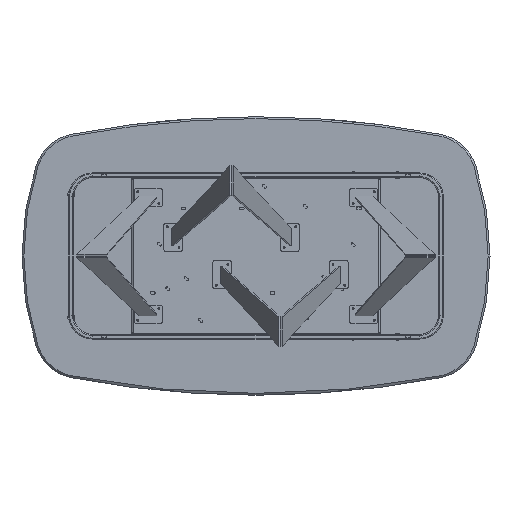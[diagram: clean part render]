
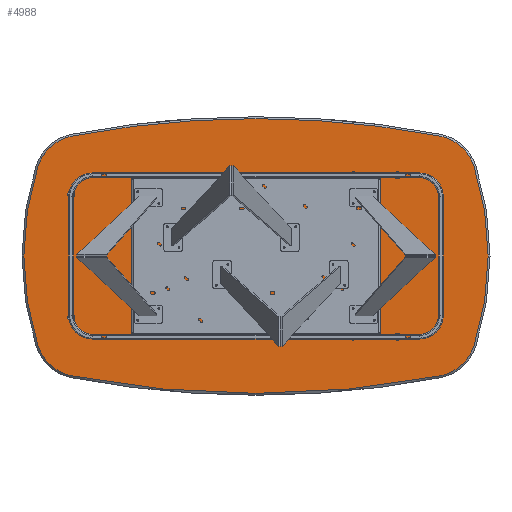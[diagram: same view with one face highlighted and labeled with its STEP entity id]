
A CAD part, front view. The second image highlights one B-rep face of the part: STEP entity #4988.
In plain terms, the highlighted planar face has unit normal (0, -1, 0).
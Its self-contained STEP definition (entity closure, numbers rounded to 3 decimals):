
#102 = AXIS2_PLACEMENT_3D ( 'NONE', #15110, #5413, #6010 ) ;
#274 = CIRCLE ( 'NONE', #16455, 192. ) ;
#595 = CIRCLE ( 'NONE', #2622, 192. ) ;
#728 = CARTESIAN_POINT ( 'NONE',  ( 785.163, 0., -512.813 ) ) ;
#980 = CARTESIAN_POINT ( 'NONE',  ( 0., 0., -3605. ) ) ;
#1252 = VERTEX_POINT ( 'NONE', #9365 ) ;
#1504 = FACE_OUTER_BOUND ( 'NONE', #8410, .T. ) ;
#2261 = AXIS2_PLACEMENT_3D ( 'NONE', #17121, #10712, #18926 ) ;
#2622 = AXIS2_PLACEMENT_3D ( 'NONE', #13698, #18552, #10653 ) ;
#2670 = VERTEX_POINT ( 'NONE', #2945 ) ;
#2945 = CARTESIAN_POINT ( 'NONE',  ( -785.163, 0., 512.813 ) ) ;
#3015 = DIRECTION ( 'NONE',  ( 0., 0., 1. ) ) ;
#3099 = CARTESIAN_POINT ( 'NONE',  ( 0., 0., 3605. ) ) ;
#3222 = VERTEX_POINT ( 'NONE', #12262 ) ;
#3778 = CARTESIAN_POINT ( 'NONE',  ( -785.163, 0., -512.813 ) ) ;
#3848 = CARTESIAN_POINT ( 'NONE',  ( 785.163, 0., 512.813 ) ) ;
#3952 = CIRCLE ( 'NONE', #16744, 4192. ) ;
#4305 = CARTESIAN_POINT ( 'NONE',  ( 0., 0., 587. ) ) ;
#4474 = CIRCLE ( 'NONE', #102, 192. ) ;
#4565 = PLANE ( 'NONE',  #2261 ) ;
#4602 = ORIENTED_EDGE ( 'NONE', *, *, #9332, .T. ) ;
#4809 = EDGE_CURVE ( 'NONE', #4822, #5918, #17072, .T. ) ;
#4822 = VERTEX_POINT ( 'NONE', #3848 ) ;
#4988 = ADVANCED_FACE ( 'NONE', ( #1504 ), #4565, .F. ) ;
#5087 = EDGE_CURVE ( 'NONE', #7660, #12031, #16750, .T. ) ;
#5413 = DIRECTION ( 'NONE',  ( 0., -1., 0. ) ) ;
#5763 = ORIENTED_EDGE ( 'NONE', *, *, #5087, .T. ) ;
#5821 = ORIENTED_EDGE ( 'NONE', *, *, #14613, .T. ) ;
#5918 = VERTEX_POINT ( 'NONE', #4305 ) ;
#6010 = DIRECTION ( 'NONE',  ( 0., 0., 1. ) ) ;
#6079 = DIRECTION ( 'NONE',  ( 0., 0., 1. ) ) ;
#6187 = CARTESIAN_POINT ( 'NONE',  ( 749.201, 0., -324.211 ) ) ;
#6317 = AXIS2_PLACEMENT_3D ( 'NONE', #980, #13656, #8616 ) ;
#6494 = CARTESIAN_POINT ( 'NONE',  ( -932., 0., 382.936 ) ) ;
#6868 = DIRECTION ( 'NONE',  ( 0., -1., 0. ) ) ;
#7351 = ORIENTED_EDGE ( 'NONE', *, *, #4809, .T. ) ;
#7363 = ORIENTED_EDGE ( 'NONE', *, *, #12073, .T. ) ;
#7660 = VERTEX_POINT ( 'NONE', #3778 ) ;
#7780 = CIRCLE ( 'NONE', #20249, 1252. ) ;
#8410 = EDGE_LOOP ( 'NONE', ( #7363, #5763, #12848, #4602, #5821, #7351, #13856, #13470, #16962 ) ) ;
#8616 = DIRECTION ( 'NONE',  ( 0., 0., 1. ) ) ;
#9332 = EDGE_CURVE ( 'NONE', #14448, #1252, #10141, .T. ) ;
#9365 = CARTESIAN_POINT ( 'NONE',  ( 932., 0., 382.936 ) ) ;
#9542 = DIRECTION ( 'NONE',  ( 0., -1., 0. ) ) ;
#9852 = DIRECTION ( 'NONE',  ( 0., -1., 0. ) ) ;
#10141 = CIRCLE ( 'NONE', #15851, 1252. ) ;
#10200 = EDGE_CURVE ( 'NONE', #12031, #14448, #274, .T. ) ;
#10653 = DIRECTION ( 'NONE',  ( 0., 0., 1. ) ) ;
#10712 = DIRECTION ( 'NONE',  ( 0., 1., 0. ) ) ;
#11633 = EDGE_CURVE ( 'NONE', #14505, #3222, #7780, .T. ) ;
#11948 = CARTESIAN_POINT ( 'NONE',  ( 260., 0., 0. ) ) ;
#12031 = VERTEX_POINT ( 'NONE', #728 ) ;
#12073 = EDGE_CURVE ( 'NONE', #3222, #7660, #14178, .T. ) ;
#12262 = CARTESIAN_POINT ( 'NONE',  ( -932., 0., -382.936 ) ) ;
#12416 = CARTESIAN_POINT ( 'NONE',  ( -260., 0., 0. ) ) ;
#12693 = CARTESIAN_POINT ( 'NONE',  ( 0., 0., -3605. ) ) ;
#12831 = AXIS2_PLACEMENT_3D ( 'NONE', #16660, #6868, #13604 ) ;
#12848 = ORIENTED_EDGE ( 'NONE', *, *, #10200, .T. ) ;
#13470 = ORIENTED_EDGE ( 'NONE', *, *, #20274, .T. ) ;
#13604 = DIRECTION ( 'NONE',  ( 0., 0., 1. ) ) ;
#13656 = DIRECTION ( 'NONE',  ( 0., -1., 0. ) ) ;
#13698 = CARTESIAN_POINT ( 'NONE',  ( -749.201, 0., 324.211 ) ) ;
#13833 = DIRECTION ( 'NONE',  ( 0., -1., 0. ) ) ;
#13856 = ORIENTED_EDGE ( 'NONE', *, *, #19524, .T. ) ;
#14068 = DIRECTION ( 'NONE',  ( 0., 0., 1. ) ) ;
#14178 = CIRCLE ( 'NONE', #12831, 192. ) ;
#14448 = VERTEX_POINT ( 'NONE', #17969 ) ;
#14505 = VERTEX_POINT ( 'NONE', #6494 ) ;
#14613 = EDGE_CURVE ( 'NONE', #1252, #4822, #4474, .T. ) ;
#15110 = CARTESIAN_POINT ( 'NONE',  ( 749.201, 0., 324.211 ) ) ;
#15416 = AXIS2_PLACEMENT_3D ( 'NONE', #3099, #9542, #14068 ) ;
#15851 = AXIS2_PLACEMENT_3D ( 'NONE', #12416, #20847, #3015 ) ;
#16269 = DIRECTION ( 'NONE',  ( 0., 0., 1. ) ) ;
#16455 = AXIS2_PLACEMENT_3D ( 'NONE', #6187, #20842, #6079 ) ;
#16660 = CARTESIAN_POINT ( 'NONE',  ( -749.201, 0., -324.211 ) ) ;
#16744 = AXIS2_PLACEMENT_3D ( 'NONE', #12693, #9852, #16269 ) ;
#16750 = CIRCLE ( 'NONE', #15416, 4192. ) ;
#16962 = ORIENTED_EDGE ( 'NONE', *, *, #11633, .T. ) ;
#17072 = CIRCLE ( 'NONE', #6317, 4192. ) ;
#17121 = CARTESIAN_POINT ( 'NONE',  ( -130., 0., 1802.5 ) ) ;
#17969 = CARTESIAN_POINT ( 'NONE',  ( 932., 0., -382.936 ) ) ;
#18272 = DIRECTION ( 'NONE',  ( 0., 0., 1. ) ) ;
#18552 = DIRECTION ( 'NONE',  ( 0., -1., 0. ) ) ;
#18926 = DIRECTION ( 'NONE',  ( 0., 0., 1. ) ) ;
#19524 = EDGE_CURVE ( 'NONE', #5918, #2670, #3952, .T. ) ;
#20249 = AXIS2_PLACEMENT_3D ( 'NONE', #11948, #13833, #18272 ) ;
#20274 = EDGE_CURVE ( 'NONE', #2670, #14505, #595, .T. ) ;
#20842 = DIRECTION ( 'NONE',  ( 0., -1., 0. ) ) ;
#20847 = DIRECTION ( 'NONE',  ( 0., -1., 0. ) ) ;
